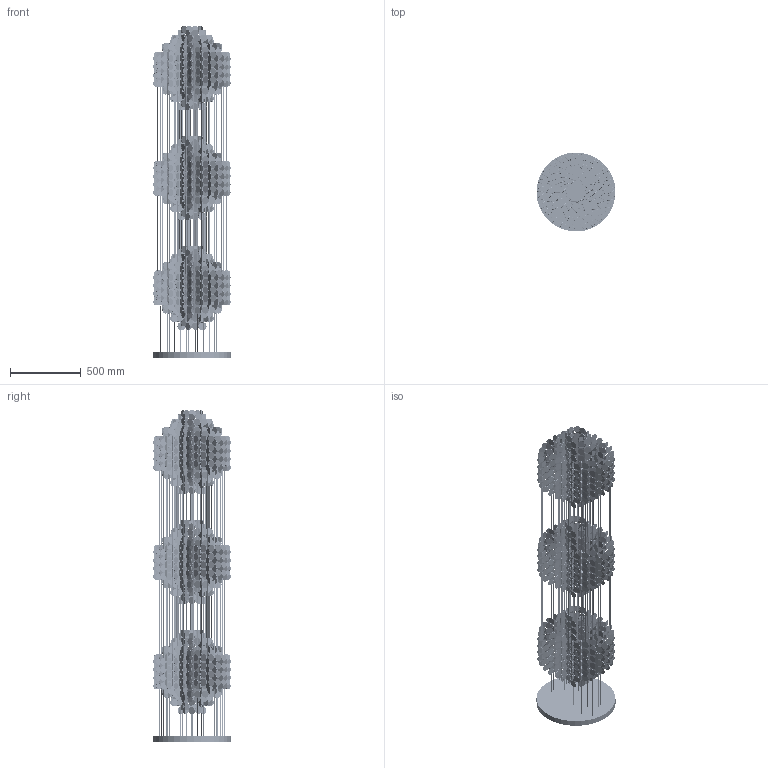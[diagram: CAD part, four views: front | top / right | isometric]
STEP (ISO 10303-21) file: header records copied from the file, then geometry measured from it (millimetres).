
FILE_DESCRIPTION (( 'STEP AP214' ), '1' );
FILE_NAME ('FUN 3DM assembly.STEP', '2013-01-07T19:16:54', ( '' ), ( '' ), 'SwSTEP 2.0', 'SolidWorks 2013', '' );
FILE_SCHEMA (( 'AUTOMOTIVE_DESIGN' ));
Length unit declared in the file: millimetre
Products named in the file (10): Line 356.8; Line 331.8; Line 299.3; Line 274.3; Line 241.8; Line 216.8; Line 184.3; Line 159.3; Upper plate ø560; FUN 3DM assembly
Assembly tree (147 placements, depth 2):
  FUN 3DM assembly
    Upper plate ø560
    Line 159.3  x10
    Line 184.3  x10
    Line 216.8  x16
    Line 241.8  x16
    Line 274.3  x20
    Line 299.3  x20
    Line 331.8  x27
    Line 356.8  x27
Bounding box: 559.26 x 559.26 x 2351.3 mm (x, y, z)
Volume: 15641677.1 mm3; surface area: 12644554.8 mm2
Topology: 3175 solids, 3175 shells, 13102 faces, 19854 edges, 13236 vertices
Faces by surface type: cylinder 6618, plane 6484
Entity records: 31272 total; most frequent: DIRECTION 5918, CARTESIAN_POINT 4594, ORIENTED_EDGE 3924, AXIS2_PLACEMENT_3D 2632, EDGE_CURVE 1962, CIRCLE 1308, VERTEX_POINT 1308, EDGE_LOOP 1308
